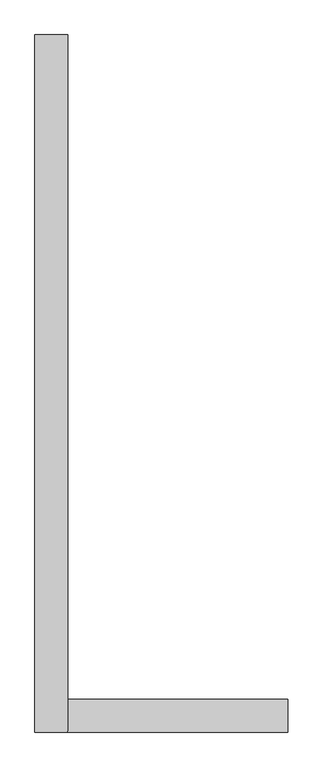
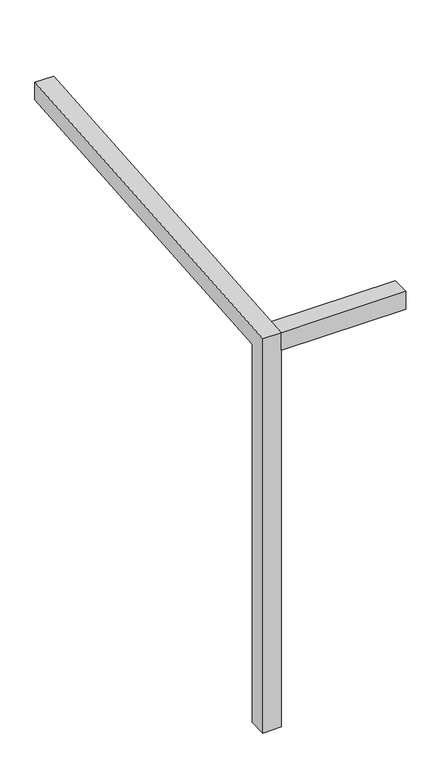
"""IFC4 building model written with IfcOpenShell, lengths in millimetres: column geometry, ARCO_MET-01 : ARCO_MET-01."""

from ifc_helpers import new_model, si_unit, frame, origin, place, context, project, spatial, polyline, outline, extrude, source, transform, mapped, element, save


def column_d02f8714(model_context):
    return source(origin(), model_context, "Body", "SweptSolid", [
        extrude(outline(polyline([(-15805.5691788, -3388.0609004), (-15805.5691788, -3268.0609004), (-15005.5691788, -3268.0609004), (-15005.5691788, -3388.0609004), (-15805.5691788, -3388.0609004)])), frame((0.0, 0.0, 2542.2219588), z_axis=(0.0, 0.0, 1.0), x_axis=(1.0, 0.0, 0.0)), (0.0, 0.0, 1.0), 120.0),
        extrude(outline(polyline([(-848.0609004, 2866.7067683), (-848.0609004, 2746.318525), (-3268.0609004, 2551.4944152), (-3268.0609004, -20.0), (-3388.0609004, -20.0), (-3388.0609004, 2662.2219588), (-848.0609004, 2866.7067683)])), frame((-15925.5691788, 0.0, 0.0), z_axis=(1.0, 0.0, 0.0), x_axis=(0.0, 1.0, 0.0)), (0.0, 0.0, 1.0), 120.0),
    ])


if __name__ == "__main__":
    model = new_model("IFC4")
    model_context = context("Model", 3, world=origin())
    ifc_project = project(units=[si_unit("LENGTHUNIT", "METRE", prefix="MILLI")], contexts=[model_context])
    site = spatial("IfcSite", under=ifc_project)
    building = spatial("IfcBuilding", under=site)
    placement = place(None, origin())
    column_shape = column_d02f8714(model_context)
    element("IfcColumn", 1, ObjectType="ARCO_MET-01 : ARCO_MET-01", at=placement, inside=building, context=model_context, shape_type="MappedRepresentation", body=[
        mapped(column_shape, transform((0.0, 0.0, 0.0), x_axis=(1.0, 0.0, 0.0), y_axis=(0.0, 1.0, 0.0), z_axis=(0.0, 0.0, 1.0))),
    ])
    save(model, "model.ifc")
